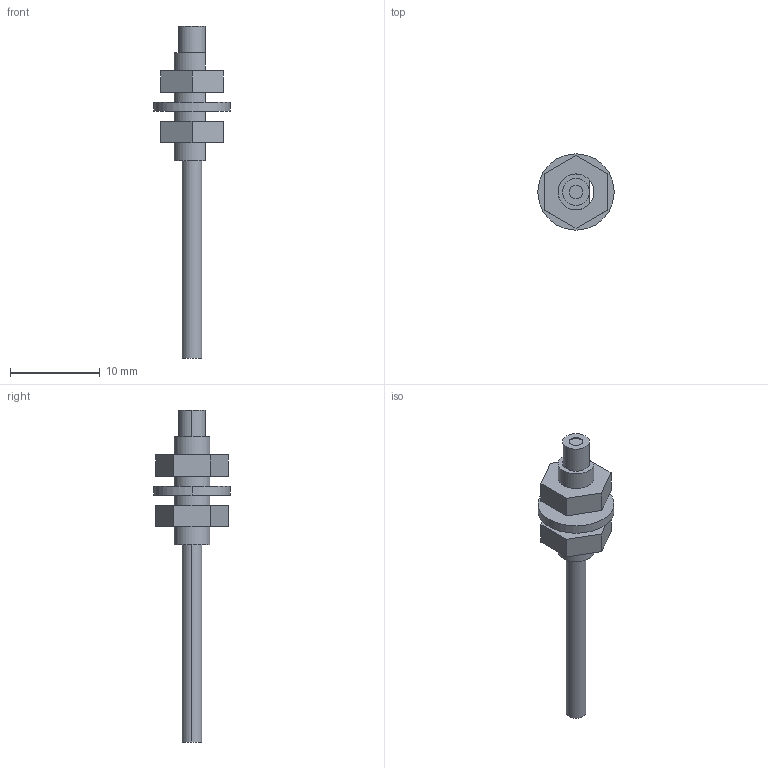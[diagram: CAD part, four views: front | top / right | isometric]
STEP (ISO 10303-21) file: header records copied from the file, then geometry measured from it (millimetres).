
FILE_DESCRIPTION (( 'STEP AP203' ), '1' );
FILE_NAME ('FT-H13-FM2.STEP', '2005-11-09T08:24:04', ( '' ), ( '' ), 'SwSTEP 2.0', 'SolidWorks 2004073', '' );
FILE_SCHEMA (( 'CONFIG_CONTROL_DESIGN' ));
Length unit declared in the file: millimetre
Products named in the file (1): FT-H13-FM2
Bounding box: 8.5 x 8.5 x 37 mm (x, y, z)
Volume: 432.1 mm3; surface area: 775.8 mm2
Topology: 4 solids, 4 shells, 39 faces, 85 edges, 56 vertices
Faces by surface type: plane 24, cylinder 15
Entity records: 1156 total; most frequent: DIRECTION 195, CARTESIAN_POINT 181, ORIENTED_EDGE 170, EDGE_CURVE 85, AXIS2_PLACEMENT_3D 70, VERTEX_POINT 56, VECTOR 55, LINE 55
